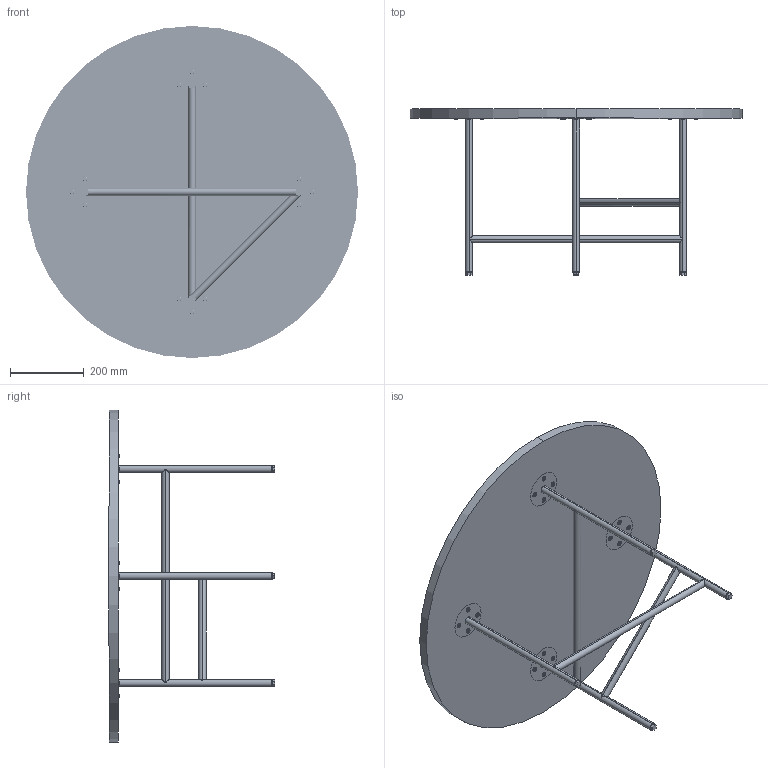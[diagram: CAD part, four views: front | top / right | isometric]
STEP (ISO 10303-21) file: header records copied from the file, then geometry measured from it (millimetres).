
FILE_DESCRIPTION (( 'STEP AP214' ), '1' );
FILE_NAME ('Step- Up Table - D900XH450.STEP', '2024-04-05T05:52:42', ( '' ), ( '' ), 'SwSTEP 2.0', 'SolidWorks 2023', '' );
FILE_SCHEMA (( 'AUTOMOTIVE_DESIGN' ));
Length unit declared in the file: millimetre
Products named in the file (6): M6x20MM Hex LevellerR - 01R - 02; Step- Up Table - D900XH450; M6x16MM Flate head allen BoltR - 01R - 02; Metal FrameR - 01R - 02_Default<As Machined>; Wooden TopR - 01R - 02; Wood insert nut_M6R - 01R - 02
Assembly tree (38 placements, depth 2):
  Step- Up Table - D900XH450
    Metal FrameR - 01R - 02_Default<As Machined>
    Wooden TopR - 01R - 02
    M6x16MM Flate head allen BoltR - 01R - 02  x16
    M6x20MM Hex LevellerR - 01R - 02  x4
    Wood insert nut_M6R - 01R - 02  x16
Bounding box: 900 x 450 x 900 mm (x, y, z)
Volume: 16434397.5 mm3; surface area: 1769267.6 mm2
Topology: 52 solids, 52 shells, 1980 faces, 5083 edges, 3262 vertices
Faces by surface type: cylinder 1182, plane 518, torus 124, bspline 92, cone 64
Entity records: 17377 total; most frequent: CARTESIAN_POINT 9093, ORIENTED_EDGE 1640, DIRECTION 1639, EDGE_CURVE 820, AXIS2_PLACEMENT_3D 668, VERTEX_POINT 538, EDGE_LOOP 424, FACE_OUTER_BOUND 342
